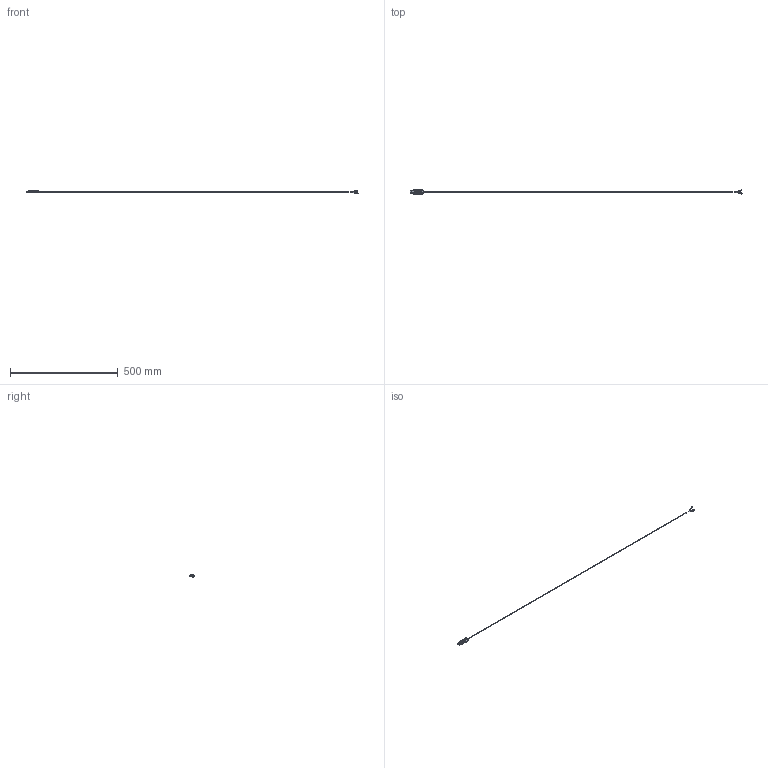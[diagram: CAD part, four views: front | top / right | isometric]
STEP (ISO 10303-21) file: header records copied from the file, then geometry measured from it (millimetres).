
FILE_DESCRIPTION (( 'STEP AP203' ), '1' );
FILE_NAME ('CABRU15_Web_230614.STEP', '2023-06-14T09:22:08', ( '' ), ( '' ), 'SwSTEP 2.0', 'SolidWorks 2022', '' );
FILE_SCHEMA (( 'CONFIG_CONTROL_DESIGN' ));
Products named in the file (1): CABRU15_Web_230614
Bounding box: 1544.27 x 20.76 x 16.49 mm (x, y, z)
Volume: 18390.4 mm3; surface area: 24153.7 mm2
Topology: 12 solids, 12 shells, 1098 faces, 2772 edges, 1740 vertices
Faces by surface type: plane 497, cylinder 274, bspline 228, torus 70, cone 29
Full cylindrical faces by diameter (mm): 0.75 x4, 1 x2, 1.04 x20, 1.569 x4, 2.43 x4, 3.5 x1, 3.835 x1
Entity records: 38299 total; most frequent: CARTESIAN_POINT 14805, ORIENTED_EDGE 5302, DIRECTION 3996, EDGE_CURVE 2651, VERTEX_POINT 1709, LINE 1444, VECTOR 1444, AXIS2_PLACEMENT_3D 1276
